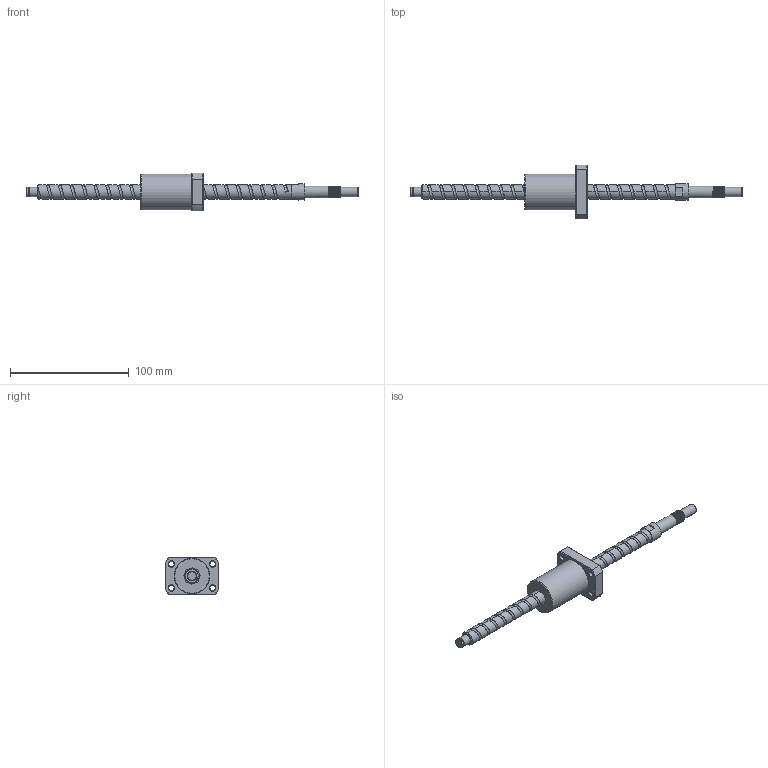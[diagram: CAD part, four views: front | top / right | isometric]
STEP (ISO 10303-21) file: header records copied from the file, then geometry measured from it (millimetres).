
FILE_DESCRIPTION (( 'STEP AP203' ), '1' );
FILE_NAME ('XSVR01210B1DGC5-280-P1.step', '2024-06-03T03:44:14', ( '' ), ( '' ), 'SwSTEP 2.0', 'SolidWorks 2022', '' );
FILE_SCHEMA (( 'CONFIG_CONTROL_DESIGN' ));
Length unit declared in the file: millimetre
Products named in the file (1): XSVR01210B1DGC5-280-P1
Bounding box: 280 x 45 x 32 mm (x, y, z)
Volume: 63575.7 mm3; surface area: 21993.4 mm2
Topology: 2 solids, 2 shells, 144 faces, 371 edges, 235 vertices
Faces by surface type: cylinder 61, plane 38, bspline 22, cone 14, torus 9
Full cylindrical faces by diameter (mm): 3.998 x1, 4 x2, 4.5 x4, 7.6 x1, 8 x7, 10 x10, 12 x21, 13.5 x1, 14 x1, 30 x1
Entity records: 15177 total; most frequent: CARTESIAN_POINT 12890, ORIENTED_EDGE 464, DIRECTION 394, EDGE_CURVE 232, AXIS2_PLACEMENT_3D 172, EDGE_LOOP 164, VERTEX_POINT 160, FACE_OUTER_BOUND 133
